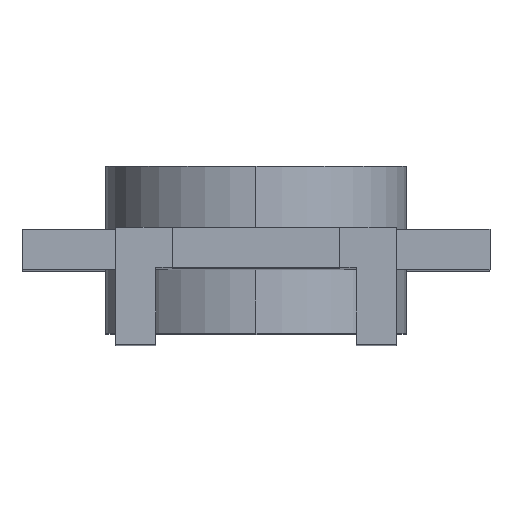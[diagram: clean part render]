
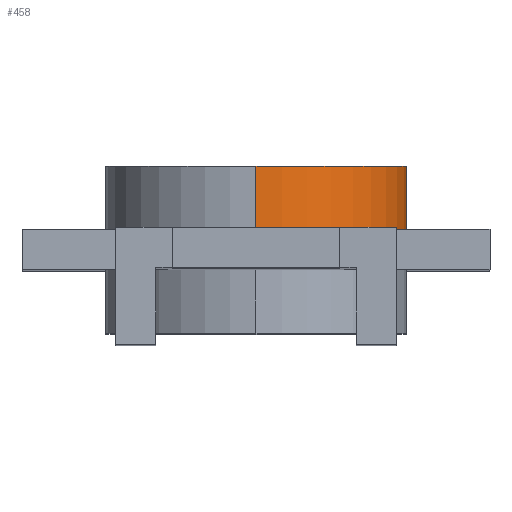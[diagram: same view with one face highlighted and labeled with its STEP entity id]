
A CAD part, top view. The second image highlights one B-rep face of the part: STEP entity #458.
In plain terms, the highlighted cylindrical face has radius 4.5 mm (diameter 9 mm), a partial arc.
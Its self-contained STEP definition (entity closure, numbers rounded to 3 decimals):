
#264 = EDGE_CURVE ( 'NONE', #317, #454, #1005, .T. ) ;
#265 = VERTEX_POINT ( 'NONE', #999 ) ;
#266 = EDGE_CURVE ( 'NONE', #265, #322, #962, .T. ) ;
#268 = ORIENTED_EDGE ( 'NONE', *, *, #266, .F. ) ;
#269 = EDGE_CURVE ( 'NONE', #317, #265, #1000, .T. ) ;
#273 = ORIENTED_EDGE ( 'NONE', *, *, #269, .F. ) ;
#317 = VERTEX_POINT ( 'NONE', #826 ) ;
#319 = ORIENTED_EDGE ( 'NONE', *, *, #264, .T. ) ;
#321 = EDGE_LOOP ( 'NONE', ( #319, #459, #268, #273 ) ) ;
#322 = VERTEX_POINT ( 'NONE', #878 ) ;
#454 = VERTEX_POINT ( 'NONE', #1174 ) ;
#458 = ADVANCED_FACE ( 'NONE', ( #1183 ), #1234, .T. ) ;
#459 = ORIENTED_EDGE ( 'NONE', *, *, #460, .T. ) ;
#460 = EDGE_CURVE ( 'NONE', #454, #322, #1231, .T. ) ;
#794 = DIRECTION ( 'NONE',  ( 0., 1., 0. ) ) ;
#826 = CARTESIAN_POINT ( 'NONE',  ( 0., 0.6, 25.4 ) ) ;
#878 = CARTESIAN_POINT ( 'NONE',  ( 0., 2.5, 16.4 ) ) ;
#959 = AXIS2_PLACEMENT_3D ( 'NONE', #998, #997, #996 ) ;
#962 = CIRCLE ( 'NONE', #995, 4.5 ) ;
#987 = VECTOR ( 'NONE', #794, 1000. ) ;
#988 = DIRECTION ( 'NONE',  ( 0., 0., 1. ) ) ;
#989 = DIRECTION ( 'NONE',  ( 0., 1., 0. ) ) ;
#990 = CARTESIAN_POINT ( 'NONE',  ( 0., 2.5, 20.9 ) ) ;
#992 = CARTESIAN_POINT ( 'NONE',  ( 0., -2.5, 25.4 ) ) ;
#995 = AXIS2_PLACEMENT_3D ( 'NONE', #990, #989, #988 ) ;
#996 = DIRECTION ( 'NONE',  ( 0., 0., 1. ) ) ;
#997 = DIRECTION ( 'NONE',  ( 0., 1., 0. ) ) ;
#998 = CARTESIAN_POINT ( 'NONE',  ( 0., 0.6, 20.9 ) ) ;
#999 = CARTESIAN_POINT ( 'NONE',  ( 0., 2.5, 25.4 ) ) ;
#1000 = LINE ( 'NONE', #992, #987 ) ;
#1005 = CIRCLE ( 'NONE', #959, 4.5 ) ;
#1174 = CARTESIAN_POINT ( 'NONE',  ( 0., 0.6, 16.4 ) ) ;
#1183 = FACE_OUTER_BOUND ( 'NONE', #321, .T. ) ;
#1222 = DIRECTION ( 'NONE',  ( 0., 1., 0. ) ) ;
#1223 = VECTOR ( 'NONE', #1222, 1000. ) ;
#1224 = CARTESIAN_POINT ( 'NONE',  ( 0., -2.5, 16.4 ) ) ;
#1227 = DIRECTION ( 'NONE',  ( 0., 0., 1. ) ) ;
#1228 = DIRECTION ( 'NONE',  ( 0., 1., 0. ) ) ;
#1229 = CARTESIAN_POINT ( 'NONE',  ( 0., -2.5, 20.9 ) ) ;
#1230 = AXIS2_PLACEMENT_3D ( 'NONE', #1229, #1228, #1227 ) ;
#1231 = LINE ( 'NONE', #1224, #1223 ) ;
#1234 = CYLINDRICAL_SURFACE ( 'NONE', #1230, 4.5 ) ;
